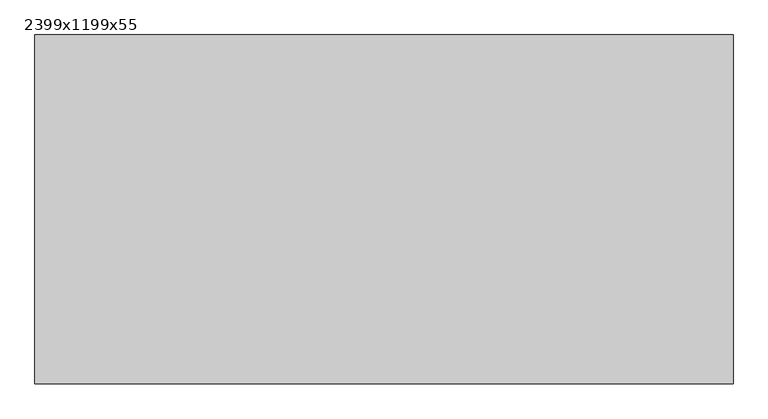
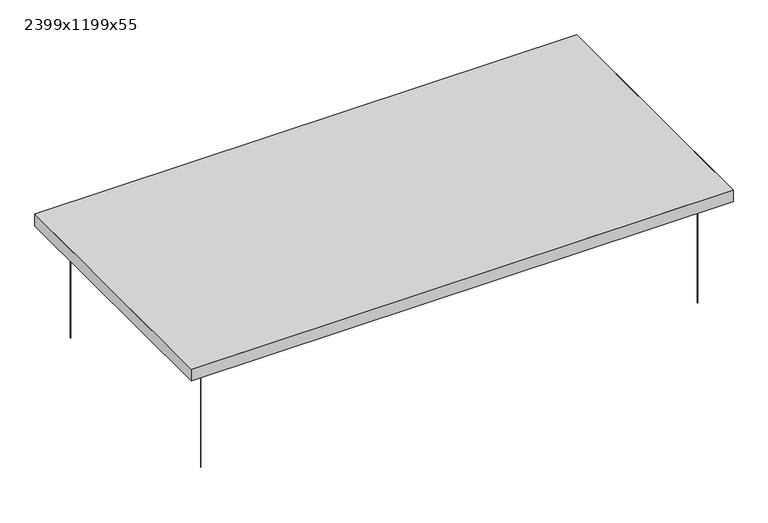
"""IFC4 building model written with IfcOpenShell, lengths in millimetres: proxy geometry, Texaa_Plafond respirant_Strato_Panneaux respirant : 2399x1199x55."""

import ifcopenshell
import ifcopenshell.guid

model = None  # the IFC model being written
_history = None  # IfcOwnerHistory: only IFC2X3 demands one
_inside = {}  # id of a spatial element -> (the spatial element, [elements in it])
_under = {}  # id of a project, library or spatial element -> (it, [spatial elements below it])
_declared = {}  # id of a project -> (the project, [libraries it declares])
_typed = {}  # id of a type object -> (the type object, [elements of that type])
_made_of = {}  # id of a material, layer set ... -> (it, [elements and type objects made of it])


def new_model(schema):
    """Start an empty IFC model of exactly this schema.

    Asked for "IFC4X3", IfcOpenShell would pick the latest addendum, in which some entities
    have other attributes; the version numbers below select the first issue.
    IFC2X3 requires an IfcOwnerHistory on every rooted entity: one is made here for all.
    """
    global model, _history
    if schema == "IFC4X3":
        model = ifcopenshell.file(schema_version=(4, 3, 0, 0))
    else:
        model = ifcopenshell.file(schema=schema)
    _inside.clear()
    _under.clear()
    _declared.clear()
    _typed.clear()
    _made_of.clear()
    _history = None
    if model.schema == "IFC2X3":
        org = make("IfcOrganization", Name="unknown")
        user = make(
            "IfcPersonAndOrganization",
            ThePerson=make("IfcPerson", FamilyName="unknown"),
            TheOrganization=org,
        )
        app = make(
            "IfcApplication",
            ApplicationDeveloper=org,
            Version="unknown",
            ApplicationFullName="unknown",
            ApplicationIdentifier="unknown",
        )
        _history = make(
            "IfcOwnerHistory",
            OwningUser=user,
            OwningApplication=app,
            ChangeAction="ADDED",
            CreationDate=0,
        )
    return model


def make(cls, **values):
    """One entity of the class cls with the attributes given. An attribute that is None is left unset."""
    return model.create_entity(
        cls, **{name: value for name, value in values.items() if value is not None}
    )


def rooted(cls, **values):
    """An entity with a GlobalId (a new one), such as an element, a storey or a relation."""
    return make(cls, GlobalId=ifcopenshell.guid.new(), OwnerHistory=_history, **values)


def si_unit(unit_type, name, prefix=None):
    """IfcSIUnit, for example si_unit("LENGTHUNIT", "METRE", prefix="MILLI")."""
    return make("IfcSIUnit", UnitType=unit_type, Prefix=prefix, Name=name)


def assignment(units):
    """IfcUnitAssignment: the units of a project."""
    return None if units is None else make("IfcUnitAssignment", Units=units)


def point(xyz):
    """IfcCartesianPoint."""
    return None if xyz is None else make("IfcCartesianPoint", Coordinates=xyz)


def direction(xyz):
    """IfcDirection."""
    return None if xyz is None else make("IfcDirection", DirectionRatios=xyz)


def frame(location, z_axis=None, x_axis=None):
    """IfcAxis2Placement3D, a coordinate frame: its origin and axes. An axis left out is left unset."""
    return make(
        "IfcAxis2Placement3D",
        Location=point(location),
        Axis=direction(z_axis),
        RefDirection=direction(x_axis),
    )


def frame_2d(location, x_axis=None):
    """IfcAxis2Placement2D, a coordinate frame in the plane: its origin and x axis."""
    return make(
        "IfcAxis2Placement2D", Location=point(location), RefDirection=direction(x_axis)
    )


def origin():
    """The frame at (0, 0, 0) with its axes left unset."""
    return frame((0.0, 0.0, 0.0))


def origin_with_axes():
    """The frame at (0, 0, 0) with the z axis (0, 0, 1) and the x axis (1, 0, 0) written out."""
    return frame((0.0, 0.0, 0.0), z_axis=(0.0, 0.0, 1.0), x_axis=(1.0, 0.0, 0.0))


def place(relative_to, where):
    """IfcLocalPlacement: puts the frame where relative to a parent placement (None: the world)."""
    return make(
        "IfcLocalPlacement", PlacementRelTo=relative_to, RelativePlacement=where
    )


def context(
    kind, dimensions, precision=None, world=None, true_north=None, identifier=None
):
    """IfcGeometricRepresentationContext, for example the 3D "Model" context."""
    return make(
        "IfcGeometricRepresentationContext",
        ContextIdentifier=identifier,
        ContextType=kind,
        CoordinateSpaceDimension=dimensions,
        Precision=precision,
        WorldCoordinateSystem=world,
        TrueNorth=true_north,
    )


def project(units=None, contexts=None):
    """IfcProject with its units and contexts."""
    return rooted(
        "IfcProject",
        Name="project",
        RepresentationContexts=contexts,
        UnitsInContext=assignment(units),
    )


def spatial(cls, under=None, at=None, **own):
    """A site, building, storey or space (cls), placed at a placement, below another one or the project."""
    s = rooted(cls, ObjectPlacement=at, **own)
    if under is not None:
        _under.setdefault(under.id(), (under, []))[1].append(s)
    return s


def circle_curve(where, radius):
    """IfcCircle in the frame where."""
    return make("IfcCircle", Position=where, Radius=radius)


def trimmed(basis, trim1, trim2, sense, master):
    """IfcTrimmedCurve: the piece of a basis curve between two trims."""
    return make(
        "IfcTrimmedCurve",
        BasisCurve=basis,
        Trim1=trim1,
        Trim2=trim2,
        SenseAgreement=sense,
        MasterRepresentation=master,
    )


def segment(curve, same_sense, transition):
    """IfcCompositeCurveSegment."""
    return make(
        "IfcCompositeCurveSegment",
        Transition=transition,
        SameSense=same_sense,
        ParentCurve=curve,
    )


def composite_curve(segments, self_intersect=None):
    """IfcCompositeCurve: segments joined end to end."""
    return make("IfcCompositeCurve", Segments=segments, SelfIntersect=self_intersect)


def outline(outer, holes=None, kind="AREA"):
    """IfcArbitraryClosedProfileDef: a profile drawn as a closed curve; with holes, ...WithVoids."""
    if holes is None:
        return make("IfcArbitraryClosedProfileDef", ProfileType=kind, OuterCurve=outer)
    return make(
        "IfcArbitraryProfileDefWithVoids",
        ProfileType=kind,
        OuterCurve=outer,
        InnerCurves=holes,
    )


def extrude(swept, where, along, depth):
    """IfcExtrudedAreaSolid: the profile swept, set in the frame where, extruded along a direction by depth."""
    return make(
        "IfcExtrudedAreaSolid",
        SweptArea=swept,
        Position=where,
        ExtrudedDirection=direction(along),
        Depth=depth,
    )


def faces_of(points, faces, orient=None, outer=None):
    """IfcFace entities. A face is a list of loops; a loop is a list of indices into points, from 0.

    orient and outer hold one flag for each loop. By default every Orientation is true, the
    first loop of a face is its IfcFaceOuterBound and the others are IfcFaceBound.
    """
    made = []
    for i, loops in enumerate(faces):
        bounds = []
        for j, loop in enumerate(loops):
            is_outer = j == 0 if outer is None else outer[i][j]
            bounds.append(
                make(
                    "IfcFaceOuterBound" if is_outer else "IfcFaceBound",
                    Bound=make("IfcPolyLoop", Polygon=[points[k] for k in loop]),
                    Orientation=True if orient is None else orient[i][j],
                )
            )
        made.append(make("IfcFace", Bounds=bounds))
    return made


def faceted_brep(points, faces, orient=None, outer=None, voids=None):
    """IfcFacetedBrep: a solid bounded by flat faces; with voids (closed shells), ...WithVoids."""
    shared = [point(p) for p in points]
    hull = make("IfcClosedShell", CfsFaces=faces_of(shared, faces, orient, outer))
    if voids is None:
        return make("IfcFacetedBrep", Outer=hull)
    return make(
        "IfcFacetedBrepWithVoids",
        Outer=hull,
        Voids=[
            make(cls, CfsFaces=faces_of(shared, fs, o, b)) for cls, fs, o, b in voids
        ],
    )


def shape(context_of_items, identifier, shape_type, items):
    """IfcShapeRepresentation: the items that make up one representation, for example the "Body"."""
    return make(
        "IfcShapeRepresentation",
        ContextOfItems=context_of_items,
        RepresentationIdentifier=identifier,
        RepresentationType=shape_type,
        Items=items,
    )


def source(mapping_origin, context_of_items, identifier, shape_type, items):
    """IfcRepresentationMap: a shape defined once, which mapped items show again and again."""
    return make(
        "IfcRepresentationMap",
        MappingOrigin=mapping_origin,
        MappedRepresentation=shape(context_of_items, identifier, shape_type, items),
    )


def transform(
    local_origin,
    x_axis=None,
    y_axis=None,
    z_axis=None,
    scale=None,
    scale2=None,
    scale3=None,
    uniform=True,
):
    """IfcCartesianTransformationOperator3D, or its non-uniform kind. x_axis, y_axis, z_axis: its Axis1, 2, 3."""
    if uniform:
        return make(
            "IfcCartesianTransformationOperator3D",
            Axis1=direction(x_axis),
            Axis2=direction(y_axis),
            LocalOrigin=point(local_origin),
            Scale=scale,
            Axis3=direction(z_axis),
        )
    return make(
        "IfcCartesianTransformationOperator3DnonUniform",
        Axis1=direction(x_axis),
        Axis2=direction(y_axis),
        LocalOrigin=point(local_origin),
        Scale=scale,
        Axis3=direction(z_axis),
        Scale2=scale2,
        Scale3=scale3,
    )


def mapped(mapping_source, mapping_target):
    """IfcMappedItem: shows the shape of a source again, moved by a transform."""
    return make(
        "IfcMappedItem", MappingSource=mapping_source, MappingTarget=mapping_target
    )


def made_of(thing, what):
    """Note that an element or type object is made of a material, layer set ...; save() writes the relation."""
    if what is not None:
        _made_of.setdefault(what.id(), (what, []))[1].append(thing)
    return thing


def element(
    cls,
    number,
    at=None,
    inside=None,
    cuts=None,
    type_object=None,
    material=None,
    context=None,
    identifier="Body",
    shape_type=None,
    held_by="IfcProductDefinitionShape",
    body=None,
    shapes=None,
    **own,
):
    """One element of the class cls, such as IfcWall. Its Tag is "e" and its number.

    at: its placement. inside: the storey or other place that contains it. cuts: it is an
    opening in that element (IfcRelVoidsElement). A single representation is given by context,
    identifier, shape_type and body (its items); several are given by shapes. held_by: the class
    of the entity that holds the representations. save() writes the other relations.
    """
    e = rooted(cls, Tag="e%d" % number, ObjectPlacement=at, **own)
    if body is not None:
        shapes = [shape(context, identifier, shape_type, body)]
    if shapes is not None:
        e.Representation = make(held_by, Representations=shapes)
    if inside is not None:
        _inside.setdefault(inside.id(), (inside, []))[1].append(e)
    if cuts is not None:
        rooted(
            "IfcRelVoidsElement", RelatingBuildingElement=cuts, RelatedOpeningElement=e
        )
    if type_object is not None:
        _typed.setdefault(type_object.id(), (type_object, []))[1].append(e)
    return made_of(e, material)


def aggregate(whole, parts):
    """IfcRelAggregates: a whole, such as a stair, and the parts it consists of."""
    return rooted("IfcRelAggregates", RelatingObject=whole, RelatedObjects=parts)


def save(model, path):
    """Write the relations noted so far, then the file.

    IfcRelAggregates (storeys below a building ...), IfcRelContainedInSpatialStructure (elements
    in a storey), IfcRelDefinesByType, IfcRelAssociatesMaterial and IfcRelDeclares: one each for
    every whole, place, type object, material and project.
    """
    for whole, parts in _under.values():
        aggregate(whole, parts)
    for where, things in _inside.values():
        rooted(
            "IfcRelContainedInSpatialStructure",
            RelatedElements=things,
            RelatingStructure=where,
        )
    for kind, things in _typed.values():
        rooted("IfcRelDefinesByType", RelatedObjects=things, RelatingType=kind)
    for what, things in _made_of.values():
        rooted("IfcRelAssociatesMaterial", RelatedObjects=things, RelatingMaterial=what)
    for by, libraries in _declared.values():
        rooted("IfcRelDeclares", RelatingContext=by, RelatedDefinitions=libraries)
    model.write(path)


def proxy_2399x1199x55_af46190a(model_context):
    return source(origin(), model_context, "Body", "SolidModel", [
        faceted_brep([(-1198.5, -598.5, 501.0), (1198.5, -598.5, 501.0), (1198.5, -598.5, 554.0), (-1198.5, -598.5, 554.0), (-1169.5, -569.5, 539.5411334), (1169.5, -569.5, 539.5411334), (1169.5, -569.5, 501.0), (-1169.5, -569.5, 501.0), (1198.5, 598.5, 501.0), (1198.5, 598.5, 554.0), (1169.5, 569.5, 539.5411334), (1169.5, 569.5, 501.0), (-1198.5, 598.5, 501.0), (-1198.5, 598.5, 554.0), (-1169.5, 569.5, 539.5411334), (-1169.5, 569.5, 501.0)], [[[0, 1, 2, 3]], [[4, 5, 6, 7]], [[1, 8, 9, 2]], [[5, 10, 11, 6]], [[8, 12, 13, 9]], [[10, 14, 15, 11]], [[12, 0, 3, 13]], [[14, 4, 7, 15]], [[1, 0, 12, 8], [7, 6, 11, 15]], [[3, 2, 5, 4]], [[2, 9, 10, 5]], [[9, 13, 14, 10]], [[13, 3, 4, 14]]]),
        extrude(outline(composite_curve([segment(trimmed(circle_curve(frame_2d((-1099.5, -499.5)), 0.75), [point((-1100.25, -499.5))], [point((-1098.75, -499.5))], False, "CARTESIAN"), True, "CONTINUOUS"), segment(trimmed(circle_curve(frame_2d((-1099.5, -499.5)), 0.75), [point((-1098.75, -499.5))], [point((-1100.25, -499.5))], False, "CARTESIAN"), True, "CONTINUOUS")], self_intersect=False)), origin_with_axes(), (0.0, 0.0, 1.0), 500.0),
        extrude(outline(composite_curve([segment(trimmed(circle_curve(frame_2d((1099.5, -499.5)), 0.75), [point((1098.75, -499.5))], [point((1100.25, -499.5))], False, "CARTESIAN"), True, "CONTINUOUS"), segment(trimmed(circle_curve(frame_2d((1099.5, -499.5)), 0.75), [point((1100.25, -499.5))], [point((1098.75, -499.5))], False, "CARTESIAN"), True, "CONTINUOUS")], self_intersect=False)), origin_with_axes(), (0.0, 0.0, 1.0), 500.0),
        extrude(outline(composite_curve([segment(trimmed(circle_curve(frame_2d((1099.5, 499.5)), 0.75), [point((1098.75, 499.5))], [point((1100.25, 499.5))], False, "CARTESIAN"), True, "CONTINUOUS"), segment(trimmed(circle_curve(frame_2d((1099.5, 499.5)), 0.75), [point((1100.25, 499.5))], [point((1098.75, 499.5))], False, "CARTESIAN"), True, "CONTINUOUS")], self_intersect=False)), origin_with_axes(), (0.0, 0.0, 1.0), 500.0),
        extrude(outline(composite_curve([segment(trimmed(circle_curve(frame_2d((-1099.5, 499.5)), 0.75), [point((-1100.25, 499.5))], [point((-1098.75, 499.5))], False, "CARTESIAN"), True, "CONTINUOUS"), segment(trimmed(circle_curve(frame_2d((-1099.5, 499.5)), 0.75), [point((-1098.75, 499.5))], [point((-1100.25, 499.5))], False, "CARTESIAN"), True, "CONTINUOUS")], self_intersect=False)), origin_with_axes(), (0.0, 0.0, 1.0), 500.0),
        faceted_brep([(-1199.5, -599.5, 555.0), (1199.5, -599.5, 555.0), (1199.5, 599.5, 555.0), (-1199.5, 599.5, 555.0), (-1199.5, -599.5, 500.0), (-1199.5, 599.5, 500.0), (1199.5, 599.5, 500.0), (1199.5, -599.5, 500.0), (-1169.5, 569.5, 500.0), (-1169.5, -569.5, 500.0), (1169.5, -569.5, 500.0), (1169.5, 569.5, 500.0), (1169.5, 569.5, 501.0), (-1169.5, 569.5, 501.0), (1169.5, -569.5, 501.0), (-1169.5, -569.5, 501.0), (-1198.5, -598.5, 554.0), (-1198.5, 598.5, 554.0), (1198.5, 598.5, 554.0), (1198.5, -598.5, 554.0), (-1198.5, -598.5, 501.0), (1198.5, -598.5, 501.0), (1198.5, 598.5, 501.0), (-1198.5, 598.5, 501.0)], [[[0, 1, 2, 3]], [[4, 5, 6, 7], [8, 9, 10, 11]], [[3, 5, 4, 0]], [[2, 6, 5, 3]], [[1, 7, 6, 2]], [[0, 4, 7, 1]], [[8, 11, 12, 13]], [[11, 10, 14, 12]], [[10, 9, 15, 14]], [[13, 15, 9, 8]], [[16, 17, 18, 19]], [[20, 21, 22, 23], [12, 14, 15, 13]], [[16, 20, 23, 17]], [[17, 23, 22, 18]], [[18, 22, 21, 19]], [[19, 21, 20, 16]]]),
    ])


if __name__ == "__main__":
    model = new_model("IFC4")
    model_context = context("Model", 3, world=origin())
    ifc_project = project(units=[si_unit("LENGTHUNIT", "METRE", prefix="MILLI")], contexts=[model_context])
    site = spatial("IfcSite", under=ifc_project)
    building = spatial("IfcBuilding", under=site)
    placement = place(None, origin())
    proxy_2399x1199x55_shape = proxy_2399x1199x55_af46190a(model_context)
    element("IfcBuildingElementProxy", 1, Name="Texaa_Plafond respirant_Strato_Panneaux respirant : 2399x1199x55", ObjectType="Texaa_Plafond respirant_Strato_Panneaux respirant : 2399x1199x55", at=placement, inside=building, context=model_context, shape_type="MappedRepresentation", body=[
        mapped(proxy_2399x1199x55_shape, transform((0.0, 0.0, 0.0), x_axis=(1.0, 0.0, 0.0), y_axis=(0.0, 1.0, 0.0), z_axis=(0.0, 0.0, 1.0))),
    ])
    save(model, "model.ifc")
